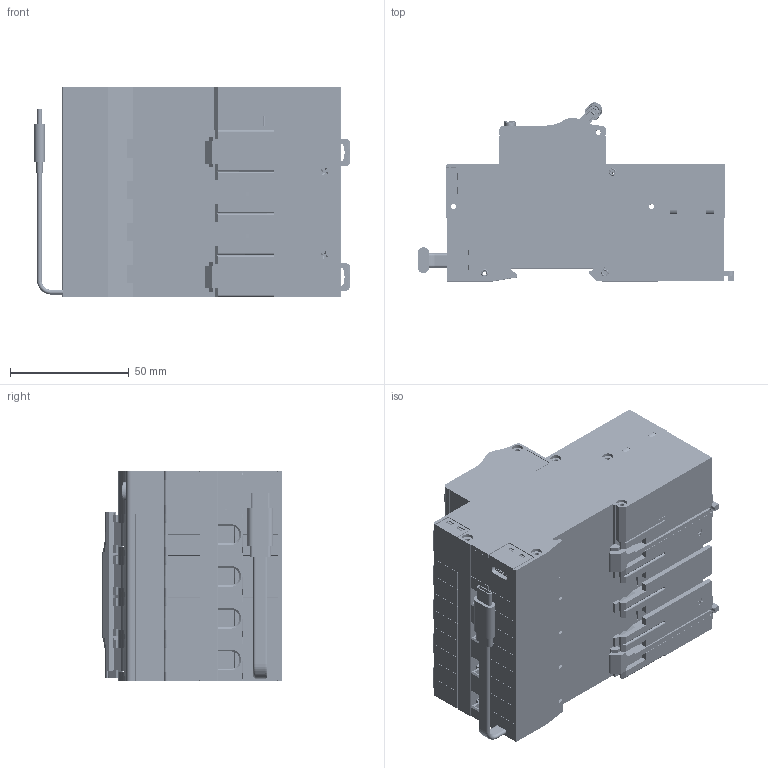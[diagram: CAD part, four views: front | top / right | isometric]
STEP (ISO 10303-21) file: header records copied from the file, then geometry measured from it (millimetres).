
FILE_DESCRIPTION (( 'STEP AP214' ), '1' );
FILE_NAME ('NDB5EL-80 4P.step', '2023-12-13T05:37:18', ( '' ), ( '' ), 'SwSTEP 2.0', 'SolidWorks 2018', '' );
FILE_SCHEMA (( 'AUTOMOTIVE_DESIGN' ));
Length unit declared in the file: millimetre
Products named in the file (1): NDB5EL-80 4P
Bounding box: 133.17 x 75.38 x 88.41 mm (x, y, z)
Volume: 218478.8 mm3; surface area: 327176 mm2
Topology: 81 solids, 87 shells, 17318 faces, 48329 edges, 31740 vertices
Faces by surface type: plane 11403, cylinder 3748, cone 1159, bspline 644, torus 344, sphere 20
Entity records: 794955 total; most frequent: CARTESIAN_POINT 164660, ORIENTED_EDGE 96650, DIRECTION 83739, EDGE_CURVE 48325, VECTOR 34201, LINE 34201, VERTEX_POINT 31740, AXIS2_PLACEMENT_3D 24769
